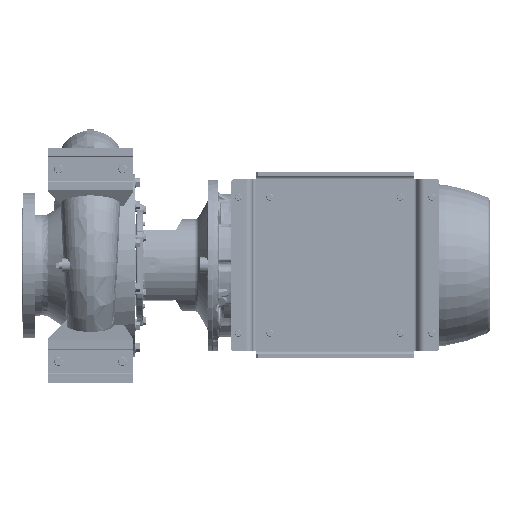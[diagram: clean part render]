
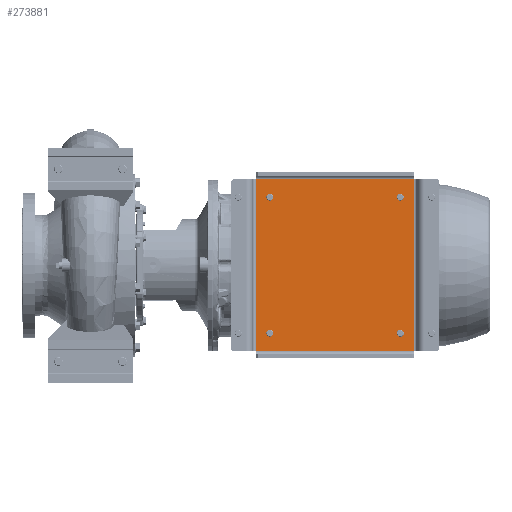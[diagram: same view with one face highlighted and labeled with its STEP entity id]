
A CAD part, front view. The second image highlights one B-rep face of the part: STEP entity #273881.
In plain terms, the highlighted planar face has unit normal (0, -1, 0).
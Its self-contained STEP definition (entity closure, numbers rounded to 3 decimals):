
#123 = LINE ( 'NONE', #256200, #196080 ) ;
#1990 = ORIENTED_EDGE ( 'NONE', *, *, #11376, .T. ) ;
#4133 = AXIS2_PLACEMENT_3D ( 'NONE', #173862, #36909, #17266 ) ;
#10674 = DIRECTION ( 'NONE',  ( 0., 0., -1. ) ) ;
#10839 = ORIENTED_EDGE ( 'NONE', *, *, #80102, .T. ) ;
#11376 = EDGE_CURVE ( 'NONE', #231681, #257477, #188807, .T. ) ;
#15633 = EDGE_LOOP ( 'NONE', ( #290517, #253316 ) ) ;
#16778 = CIRCLE ( 'NONE', #108120, 8. ) ;
#17266 = DIRECTION ( 'NONE',  ( 0., 0., -1. ) ) ;
#18953 = DIRECTION ( 'NONE',  ( -1., 0., 0. ) ) ;
#20443 = LINE ( 'NONE', #239435, #221931 ) ;
#21490 = VERTEX_POINT ( 'NONE', #193716 ) ;
#25497 = FACE_OUTER_BOUND ( 'NONE', #145888, .T. ) ;
#27531 = CARTESIAN_POINT ( 'NONE',  ( 396.5, 106., -50. ) ) ;
#34843 = EDGE_CURVE ( 'NONE', #140208, #278299, #273477, .T. ) ;
#36909 = DIRECTION ( 'NONE',  ( 0., 1., 0. ) ) ;
#46302 = VECTOR ( 'NONE', #128152, 1000. ) ;
#49931 = VERTEX_POINT ( 'NONE', #131621 ) ;
#50051 = CIRCLE ( 'NONE', #73907, 8. ) ;
#55888 = DIRECTION ( 'NONE',  ( 0., 1., 0. ) ) ;
#58374 = EDGE_CURVE ( 'NONE', #21490, #229649, #129621, .T. ) ;
#67081 = ORIENTED_EDGE ( 'NONE', *, *, #285895, .T. ) ;
#68982 = AXIS2_PLACEMENT_3D ( 'NONE', #227381, #233344, #251501 ) ;
#72350 = ORIENTED_EDGE ( 'NONE', *, *, #153527, .T. ) ;
#72468 = EDGE_CURVE ( 'NONE', #126693, #160496, #79040, .T. ) ;
#73891 = DIRECTION ( 'NONE',  ( 0., 0., -1. ) ) ;
#73907 = AXIS2_PLACEMENT_3D ( 'NONE', #294915, #89956, #86986 ) ;
#79040 = CIRCLE ( 'NONE', #194479, 8. ) ;
#80102 = EDGE_CURVE ( 'NONE', #278299, #140208, #95715, .T. ) ;
#82015 = EDGE_CURVE ( 'NONE', #184351, #191975, #133919, .T. ) ;
#86986 = DIRECTION ( 'NONE',  ( 0., 0., -1. ) ) ;
#88972 = CARTESIAN_POINT ( 'NONE',  ( 91.5, 106., -368. ) ) ;
#89956 = DIRECTION ( 'NONE',  ( 0., 1., 0. ) ) ;
#91247 = DIRECTION ( 'NONE',  ( 0., 0., -1. ) ) ;
#91760 = DIRECTION ( 'NONE',  ( 0., 0., -1. ) ) ;
#93255 = FACE_BOUND ( 'NONE', #221058, .T. ) ;
#95715 = CIRCLE ( 'NONE', #133490, 8. ) ;
#102405 = DIRECTION ( 'NONE',  ( 0., 1., 0. ) ) ;
#102420 = ORIENTED_EDGE ( 'NONE', *, *, #127557, .T. ) ;
#105335 = DIRECTION ( 'NONE',  ( 0., 0., -1. ) ) ;
#108120 = AXIS2_PLACEMENT_3D ( 'NONE', #138388, #298212, #91760 ) ;
#114343 = FACE_BOUND ( 'NONE', #156852, .T. ) ;
#117325 = PLANE ( 'NONE',  #68982 ) ;
#126401 = EDGE_LOOP ( 'NONE', ( #285342, #72350 ) ) ;
#126693 = VERTEX_POINT ( 'NONE', #88972 ) ;
#127557 = EDGE_CURVE ( 'NONE', #229649, #49931, #183050, .T. ) ;
#128152 = DIRECTION ( 'NONE',  ( 1., 0., 0. ) ) ;
#129621 = LINE ( 'NONE', #197416, #46302 ) ;
#131621 = CARTESIAN_POINT ( 'NONE',  ( 429., 106., -16. ) ) ;
#133490 = AXIS2_PLACEMENT_3D ( 'NONE', #195840, #55888, #10674 ) ;
#133919 = CIRCLE ( 'NONE', #4133, 8. ) ;
#137032 = CARTESIAN_POINT ( 'NONE',  ( 91.5, 106., -50. ) ) ;
#138388 = CARTESIAN_POINT ( 'NONE',  ( 91.5, 106., -58. ) ) ;
#139379 = CARTESIAN_POINT ( 'NONE',  ( 91.5, 106., -376. ) ) ;
#140208 = VERTEX_POINT ( 'NONE', #214866 ) ;
#141399 = FACE_BOUND ( 'NONE', #15633, .T. ) ;
#143536 = AXIS2_PLACEMENT_3D ( 'NONE', #216958, #102405, #105335 ) ;
#145771 = CARTESIAN_POINT ( 'NONE',  ( 91.5, 106., -66. ) ) ;
#145888 = EDGE_LOOP ( 'NONE', ( #190196, #255949, #102420, #67081 ) ) ;
#153527 = EDGE_CURVE ( 'NONE', #160496, #126693, #185624, .T. ) ;
#156852 = EDGE_LOOP ( 'NONE', ( #249679, #1990 ) ) ;
#160496 = VERTEX_POINT ( 'NONE', #290683 ) ;
#170384 = DIRECTION ( 'NONE',  ( 0., 1., 0. ) ) ;
#173862 = CARTESIAN_POINT ( 'NONE',  ( 396.5, 106., -58. ) ) ;
#173901 = EDGE_CURVE ( 'NONE', #191975, #184351, #50051, .T. ) ;
#183050 = LINE ( 'NONE', #272073, #235944 ) ;
#183261 = VERTEX_POINT ( 'NONE', #220651 ) ;
#183955 = CARTESIAN_POINT ( 'NONE',  ( 429., 106., -418. ) ) ;
#184351 = VERTEX_POINT ( 'NONE', #27531 ) ;
#185624 = CIRCLE ( 'NONE', #228909, 8. ) ;
#188807 = CIRCLE ( 'NONE', #193514, 8. ) ;
#190196 = ORIENTED_EDGE ( 'NONE', *, *, #261914, .T. ) ;
#191975 = VERTEX_POINT ( 'NONE', #265530 ) ;
#193514 = AXIS2_PLACEMENT_3D ( 'NONE', #256225, #280303, #73891 ) ;
#193716 = CARTESIAN_POINT ( 'NONE',  ( 59., 106., -418. ) ) ;
#194479 = AXIS2_PLACEMENT_3D ( 'NONE', #200437, #170384, #262381 ) ;
#195840 = CARTESIAN_POINT ( 'NONE',  ( 396.5, 106., -376. ) ) ;
#196080 = VECTOR ( 'NONE', #233576, 1000. ) ;
#197416 = CARTESIAN_POINT ( 'NONE',  ( 429., 106., -418. ) ) ;
#200437 = CARTESIAN_POINT ( 'NONE',  ( 91.5, 106., -376. ) ) ;
#206248 = FACE_BOUND ( 'NONE', #126401, .T. ) ;
#214866 = CARTESIAN_POINT ( 'NONE',  ( 396.5, 106., -384. ) ) ;
#216958 = CARTESIAN_POINT ( 'NONE',  ( 396.5, 106., -376. ) ) ;
#220651 = CARTESIAN_POINT ( 'NONE',  ( 59., 106., -16. ) ) ;
#221058 = EDGE_LOOP ( 'NONE', ( #10839, #244090 ) ) ;
#221931 = VECTOR ( 'NONE', #18953, 1000. ) ;
#227381 = CARTESIAN_POINT ( 'NONE',  ( 0., 106., 0. ) ) ;
#228909 = AXIS2_PLACEMENT_3D ( 'NONE', #139379, #231322, #91247 ) ;
#229649 = VERTEX_POINT ( 'NONE', #183955 ) ;
#231322 = DIRECTION ( 'NONE',  ( 0., 1., 0. ) ) ;
#231681 = VERTEX_POINT ( 'NONE', #145771 ) ;
#233344 = DIRECTION ( 'NONE',  ( 0., -1., 0. ) ) ;
#233576 = DIRECTION ( 'NONE',  ( 0., 0., -1. ) ) ;
#235944 = VECTOR ( 'NONE', #278012, 1000. ) ;
#239435 = CARTESIAN_POINT ( 'NONE',  ( 59., 106., -16. ) ) ;
#244090 = ORIENTED_EDGE ( 'NONE', *, *, #34843, .T. ) ;
#249679 = ORIENTED_EDGE ( 'NONE', *, *, #291131, .T. ) ;
#251501 = DIRECTION ( 'NONE',  ( 0., 0., -1. ) ) ;
#253316 = ORIENTED_EDGE ( 'NONE', *, *, #173901, .T. ) ;
#255949 = ORIENTED_EDGE ( 'NONE', *, *, #58374, .T. ) ;
#256200 = CARTESIAN_POINT ( 'NONE',  ( 59., 106., -418. ) ) ;
#256225 = CARTESIAN_POINT ( 'NONE',  ( 91.5, 106., -58. ) ) ;
#257477 = VERTEX_POINT ( 'NONE', #137032 ) ;
#261914 = EDGE_CURVE ( 'NONE', #183261, #21490, #123, .T. ) ;
#262381 = DIRECTION ( 'NONE',  ( 0., 0., -1. ) ) ;
#265530 = CARTESIAN_POINT ( 'NONE',  ( 396.5, 106., -66. ) ) ;
#272073 = CARTESIAN_POINT ( 'NONE',  ( 429., 106., -16. ) ) ;
#273477 = CIRCLE ( 'NONE', #143536, 8. ) ;
#273881 = ADVANCED_FACE ( 'NONE', ( #25497, #114343, #93255, #206248, #141399 ), #117325, .T. ) ;
#278012 = DIRECTION ( 'NONE',  ( 0., 0., 1. ) ) ;
#278299 = VERTEX_POINT ( 'NONE', #288611 ) ;
#280303 = DIRECTION ( 'NONE',  ( 0., 1., 0. ) ) ;
#285342 = ORIENTED_EDGE ( 'NONE', *, *, #72468, .T. ) ;
#285895 = EDGE_CURVE ( 'NONE', #49931, #183261, #20443, .T. ) ;
#288611 = CARTESIAN_POINT ( 'NONE',  ( 396.5, 106., -368. ) ) ;
#290517 = ORIENTED_EDGE ( 'NONE', *, *, #82015, .T. ) ;
#290683 = CARTESIAN_POINT ( 'NONE',  ( 91.5, 106., -384. ) ) ;
#291131 = EDGE_CURVE ( 'NONE', #257477, #231681, #16778, .T. ) ;
#294915 = CARTESIAN_POINT ( 'NONE',  ( 396.5, 106., -58. ) ) ;
#298212 = DIRECTION ( 'NONE',  ( 0., 1., 0. ) ) ;
